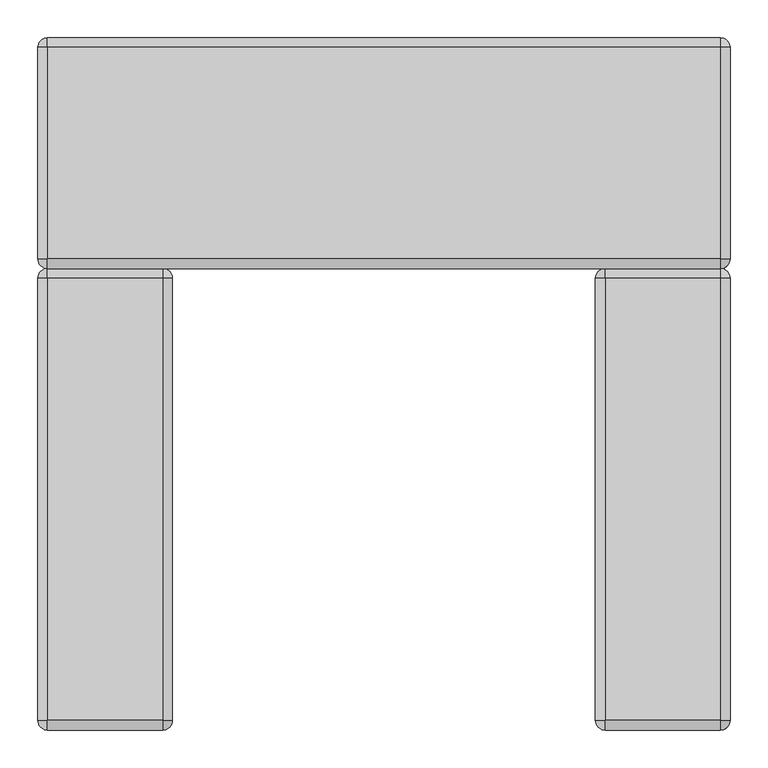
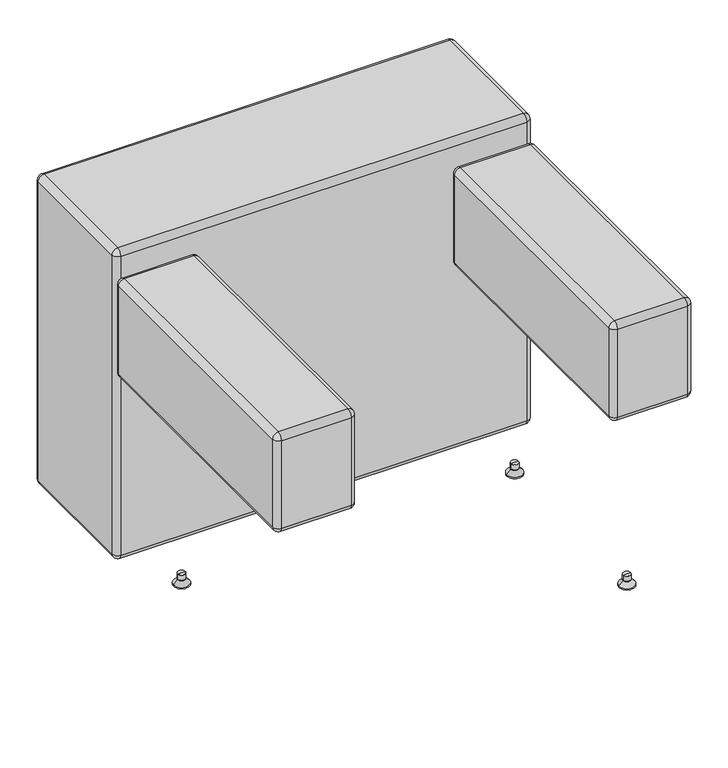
"""IFC4 building model written with IfcOpenShell, lengths in millimetres: furniture geometry, KFI Studios - Conversa : 24”x36” Seat - Armchair."""

from ifc_helpers import new_model, si_unit, point, frame, origin, place, context, project, spatial, polyline, circle_curve, ellipse_curve, trimmed, source, transform, mapped, element, save
from ifc_brep_helpers import plane_surface, cylinder_surface, revolved_surface, advanced_brep


def furniture_3dcba1a2(model_context):
    return source(origin(), model_context, "Body", "AdvancedBrep", [
        advanced_brep(
        [(-457.2, 292.1, 673.1), (-457.2, -292.1, 673.1), (-444.5, -292.1, 685.8), (-444.5, 292.1, 685.8), (-457.2, 292.1, 469.9), (-457.2, -292.1, 469.9), (-444.5, 292.1, 457.2), (-444.5, -292.1, 457.2), (-444.5, -304.8, 673.1), (-292.1, -304.8, 673.1), (-292.1, -292.1, 685.8), (-444.5, -304.8, 469.9), (-292.1, -304.8, 469.9), (-292.1, -292.1, 457.2), (-292.1, 292.1, 685.8), (-292.1, 292.1, 457.2), (-292.1, 304.8, 673.1), (-444.5, 304.8, 673.1), (-292.1, 304.8, 469.9), (-444.5, 304.8, 469.9), (-279.4, -292.1, 673.1), (-279.4, 292.1, 673.1), (-279.4, -292.1, 469.9), (-279.4, 292.1, 469.9)],
        [
            (0, 1),
            (1, 2, circle_curve(frame((-444.5, -292.1, 673.1), z_axis=(0.0, 1.0, 0.0), x_axis=(-1.0, 0.0, 0.0)), 12.7)),
            (2, 3),
            (3, 0, circle_curve(frame((-444.5, 292.1, 673.1), z_axis=(0.0, -1.0, 0.0), x_axis=(-1.0, 0.0, 0.0)), 12.7)),
            (0, 4),
            (4, 5),
            (5, 1),
            (4, 6, circle_curve(frame((-444.5, 292.1, 469.9), z_axis=(0.0, -1.0, 0.0), x_axis=(-1.0, 0.0, 0.0)), 12.7)),
            (6, 7),
            (7, 5, circle_curve(frame((-444.5, -292.1, 469.9), z_axis=(0.0, 1.0, 0.0), x_axis=(-1.0, 0.0, 0.0)), 12.7)),
            (8, 9),
            (9, 10, circle_curve(frame((-292.1, -292.1, 673.1), z_axis=(-1.0, 0.0, 0.0), x_axis=(0.0, 1.0, 0.0)), 12.7)),
            (10, 2),
            (2, 8, circle_curve(frame((-444.5, -292.1, 673.1), z_axis=(1.0, 0.0, 0.0), x_axis=(0.0, 1.0, 0.0)), 12.7)),
            (8, 11),
            (11, 12),
            (12, 9),
            (11, 7, circle_curve(frame((-444.5, -292.1, 469.9), z_axis=(1.0, 0.0, 0.0), x_axis=(0.0, 1.0, 0.0)), 12.7)),
            (7, 13),
            (13, 12, circle_curve(frame((-292.1, -292.1, 469.9), z_axis=(-1.0, 0.0, 0.0), x_axis=(0.0, 1.0, 0.0)), 12.7)),
            (10, 14),
            (14, 3),
            (6, 15),
            (15, 13),
            (16, 17),
            (17, 3, circle_curve(frame((-444.5, 292.1, 673.1), z_axis=(1.0, 0.0, 0.0), x_axis=(0.0, 1.0, 0.0)), 12.7)),
            (14, 16, circle_curve(frame((-292.1, 292.1, 673.1), z_axis=(-1.0, 0.0, 0.0), x_axis=(0.0, 1.0, 0.0)), 12.7)),
            (16, 18),
            (18, 19),
            (19, 17),
            (18, 15, circle_curve(frame((-292.1, 292.1, 469.9), z_axis=(-1.0, 0.0, 0.0), x_axis=(0.0, 1.0, 0.0)), 12.7)),
            (6, 19, circle_curve(frame((-444.5, 292.1, 469.9), z_axis=(1.0, 0.0, 0.0), x_axis=(0.0, 1.0, 0.0)), 12.7)),
            (20, 21),
            (21, 14, circle_curve(frame((-292.1, 292.1, 673.1), z_axis=(0.0, -1.0, 0.0), x_axis=(-1.0, 0.0, 0.0)), 12.7)),
            (10, 20, circle_curve(frame((-292.1, -292.1, 673.1), z_axis=(0.0, 1.0, 0.0), x_axis=(-1.0, 0.0, 0.0)), 12.7)),
            (20, 22),
            (22, 23),
            (23, 21),
            (22, 13, circle_curve(frame((-292.1, -292.1, 469.9), z_axis=(0.0, 1.0, 0.0), x_axis=(-1.0, 0.0, 0.0)), 12.7)),
            (15, 23, circle_curve(frame((-292.1, 292.1, 469.9), z_axis=(0.0, -1.0, 0.0), x_axis=(-1.0, 0.0, 0.0)), 12.7)),
            (19, 4, circle_curve(frame((-444.5, 292.1, 469.9), z_axis=(0.0, 0.0, 1.0), x_axis=(-1.0, 0.0, 0.0)), 12.7)),
            (0, 17, circle_curve(frame((-444.5, 292.1, 673.1), z_axis=(0.0, 0.0, -1.0), x_axis=(-1.0, 0.0, 0.0)), 12.7)),
            (8, 1, circle_curve(frame((-444.5, -292.1, 673.1), z_axis=(0.0, 0.0, -1.0), x_axis=(-1.0, 0.0, 0.0)), 12.7)),
            (5, 11, circle_curve(frame((-444.5, -292.1, 469.9), z_axis=(0.0, 0.0, 1.0), x_axis=(-1.0, 0.0, 0.0)), 12.7)),
            (12, 22, circle_curve(frame((-292.1, -292.1, 469.9), z_axis=(0.0, 0.0, 1.0), x_axis=(1.0, 0.0, 0.0)), 12.7)),
            (20, 9, circle_curve(frame((-292.1, -292.1, 673.1), z_axis=(0.0, 0.0, -1.0), x_axis=(1.0, 0.0, 0.0)), 12.7)),
            (16, 21, circle_curve(frame((-292.1, 292.1, 673.1), z_axis=(0.0, 0.0, -1.0), x_axis=(1.0, 0.0, 0.0)), 12.7)),
            (23, 18, circle_curve(frame((-292.1, 292.1, 469.9), z_axis=(0.0, 0.0, 1.0), x_axis=(1.0, 0.0, 0.0)), 12.7)),
        ],
        [
            cylinder_surface(frame((-444.5, -292.1, 673.1), z_axis=(0.0, -1.0, 0.0), x_axis=(-1.0, 0.0, 0.0)), 12.7),
            plane_surface(frame((-457.2, -292.1, 673.1), z_axis=(-1.0, 0.0, 0.0), x_axis=(0.0, 1.0, 0.0))),
            cylinder_surface(frame((-444.5, -292.1, 469.9), z_axis=(0.0, -1.0, 0.0), x_axis=(-1.0, 0.0, 0.0)), 12.7),
            cylinder_surface(frame((-444.5, -292.1, 673.1), z_axis=(-1.0, 0.0, 0.0), x_axis=(0.0, 1.0, 0.0)), 12.7),
            plane_surface(frame((-444.5, -304.8, 469.9), z_axis=(0.0, -1.0, 0.0), x_axis=(1.0, 0.0, 0.0))),
            cylinder_surface(frame((-444.5, -292.1, 469.9), z_axis=(-1.0, 0.0, 0.0), x_axis=(0.0, 1.0, 0.0)), 12.7),
            plane_surface(frame((-444.5, 292.1, 685.8), z_axis=(0.0, 0.0, 1.0), x_axis=(-1.0, 0.0, 0.0))),
            plane_surface(frame((-444.5, 292.1, 457.2), z_axis=(0.0, 0.0, -1.0), x_axis=(1.0, 0.0, 0.0))),
            cylinder_surface(frame((-444.5, 292.1, 673.1), z_axis=(-1.0, 0.0, 0.0), x_axis=(0.0, 1.0, 0.0)), 12.7),
            plane_surface(frame((-444.5, 304.8, 673.1), z_axis=(0.0, 1.0, 0.0), x_axis=(1.0, 0.0, 0.0))),
            cylinder_surface(frame((-444.5, 292.1, 469.9), z_axis=(-1.0, 0.0, 0.0), x_axis=(0.0, 1.0, 0.0)), 12.7),
            cylinder_surface(frame((-292.1, -292.1, 673.1), z_axis=(0.0, -1.0, 0.0), x_axis=(-1.0, 0.0, 0.0)), 12.7),
            plane_surface(frame((-279.4, -292.1, 469.9), z_axis=(1.0, 0.0, 0.0), x_axis=(0.0, 1.0, 0.0))),
            cylinder_surface(frame((-292.1, -292.1, 469.9), z_axis=(0.0, -1.0, 0.0), x_axis=(-1.0, 0.0, 0.0)), 12.7),
            cylinder_surface(frame((-444.5, 292.1, 685.8), z_axis=(0.0, 0.0, 1.0), x_axis=(-1.0, 0.0, 0.0)), 12.7),
            revolved_surface(trimmed(ellipse_curve(frame((-444.5, 292.1, 469.9), z_axis=(0.0, 1.0, 0.0), x_axis=(0.0, 0.0, 1.0)), 12.7, 12.7), [point((-444.5, 292.1, 457.2))], [point((-457.2, 292.1, 469.9))], True, "CARTESIAN"), (-444.5, 292.1, 685.8), (0.0, 0.0, 1.0)),
            revolved_surface(trimmed(ellipse_curve(frame((-444.5, 292.1, 673.1), z_axis=(0.0, 1.0, 0.0), x_axis=(0.0, 0.0, 1.0)), 12.7, 12.7), [point((-457.2, 292.1, 673.1))], [point((-444.5, 292.1, 685.8))], True, "CARTESIAN"), (-444.5, 292.1, 685.8), (0.0, 0.0, 1.0)),
            cylinder_surface(frame((-444.5, -292.1, 535.5189642), z_axis=(0.0, 0.0, -1.0), x_axis=(-1.0, 0.0, 0.0)), 12.7),
            revolved_surface(trimmed(ellipse_curve(frame((-444.5, -292.1, 673.1), z_axis=(0.0, -1.0, 0.0), x_axis=(1.0, 0.0, 0.0)), 12.7, 12.7), [point((-444.5, -292.1, 685.8))], [point((-457.2, -292.1, 673.1))], True, "CARTESIAN"), (-444.5, -292.1, 535.5189642), (0.0, 0.0, -1.0)),
            revolved_surface(trimmed(ellipse_curve(frame((-444.5, -292.1, 469.9), z_axis=(0.0, -1.0, 0.0), x_axis=(1.0, 0.0, 0.0)), 12.7, 12.7), [point((-457.2, -292.1, 469.9))], [point((-444.5, -292.1, 457.2))], True, "CARTESIAN"), (-444.5, -292.1, 535.5189642), (0.0, 0.0, -1.0)),
            cylinder_surface(frame((-292.1, -292.1, 685.8), z_axis=(0.0, 0.0, 1.0), x_axis=(1.0, 0.0, 0.0)), 12.7),
            revolved_surface(trimmed(ellipse_curve(frame((-292.1, -292.1, 469.9), z_axis=(0.0, -1.0, 0.0), x_axis=(1.0, 0.0, 0.0)), 12.7, 12.7), [point((-292.1, -292.1, 457.2))], [point((-279.4, -292.1, 469.9))], True, "CARTESIAN"), (-292.1, -292.1, 685.8), (0.0, 0.0, 1.0)),
            revolved_surface(trimmed(ellipse_curve(frame((-292.1, -292.1, 673.1), z_axis=(0.0, -1.0, 0.0), x_axis=(1.0, 0.0, 0.0)), 12.7, 12.7), [point((-279.4, -292.1, 673.1))], [point((-292.1, -292.1, 685.8))], True, "CARTESIAN"), (-292.1, -292.1, 685.8), (0.0, 0.0, 1.0)),
            cylinder_surface(frame((-292.1, 292.1, 535.5189642), z_axis=(0.0, 0.0, -1.0), x_axis=(1.0, 0.0, 0.0)), 12.7),
            revolved_surface(trimmed(ellipse_curve(frame((-292.1, 292.1, 673.1), z_axis=(0.0, 1.0, 0.0), x_axis=(0.0, 0.0, 1.0)), 12.7, 12.7), [point((-292.1, 292.1, 685.8))], [point((-279.4, 292.1, 673.1))], True, "CARTESIAN"), (-292.1, 292.1, 535.5189642), (0.0, 0.0, -1.0)),
            revolved_surface(trimmed(ellipse_curve(frame((-292.1, 292.1, 469.9), z_axis=(0.0, 1.0, 0.0), x_axis=(0.0, 0.0, 1.0)), 12.7, 12.7), [point((-279.4, 292.1, 469.9))], [point((-292.1, 292.1, 457.2))], True, "CARTESIAN"), (-292.1, 292.1, 535.5189642), (0.0, 0.0, -1.0)),
        ],
        [
            (0, [[1, 2, 3, 4]]),
            (1, [[-1, 5, 6, 7]]),
            (2, [[-6, 8, 9, 10]]),
            (3, [[11, 12, 13, 14]]),
            (4, [[-11, 15, 16, 17]]),
            (5, [[-16, 18, 19, 20]]),
            (6, [[-3, -13, 21, 22]]),
            (7, [[-9, 23, 24, -19]]),
            (8, [[25, 26, -22, 27]]),
            (9, [[-25, 28, 29, 30]]),
            (10, [[-29, 31, -23, 32]]),
            (11, [[33, 34, -21, 35]]),
            (12, [[-33, 36, 37, 38]]),
            (13, [[-37, 39, -24, 40]]),
            (14, [[41, -5, 42, -30]]),
            (15, [[-41, -32, -8]]),
            (16, [[-42, -4, -26]]),
            (17, [[43, -7, 44, -15]]),
            (18, [[-43, -14, -2]]),
            (19, [[-44, -10, -18]]),
            (20, [[45, -36, 46, -17]]),
            (21, [[-45, -20, -39]]),
            (22, [[-46, -35, -12]]),
            (23, [[47, -38, 48, -28]]),
            (24, [[-47, -27, -34]]),
            (25, [[-48, -40, -31]]),
        ],
    ),
        advanced_brep(
        [(279.4, 292.1, 673.1), (279.4, -292.1, 673.1), (292.1, -292.1, 685.8), (292.1, 292.1, 685.8), (279.4, 292.1, 469.9), (279.4, -292.1, 469.9), (292.1, 292.1, 457.2), (292.1, -292.1, 457.2), (292.1, -304.8, 673.1), (444.5, -304.8, 673.1), (444.5, -292.1, 685.8), (292.1, -304.8, 469.9), (444.5, -304.8, 469.9), (444.5, -292.1, 457.2), (444.5, 292.1, 685.8), (444.5, 292.1, 457.2), (444.5, 304.8, 673.1), (292.1, 304.8, 673.1), (444.5, 304.8, 469.9), (292.1, 304.8, 469.9), (457.2, -292.1, 673.1), (457.2, 292.1, 673.1), (457.2, -292.1, 469.9), (457.2, 292.1, 469.9)],
        [
            (0, 1),
            (1, 2, circle_curve(frame((292.1, -292.1, 673.1), z_axis=(0.0, 1.0, 0.0), x_axis=(-1.0, 0.0, 0.0)), 12.7)),
            (2, 3),
            (3, 0, circle_curve(frame((292.1, 292.1, 673.1), z_axis=(0.0, -1.0, 0.0), x_axis=(-1.0, 0.0, 0.0)), 12.7)),
            (0, 4),
            (4, 5),
            (5, 1),
            (4, 6, circle_curve(frame((292.1, 292.1, 469.9), z_axis=(0.0, -1.0, 0.0), x_axis=(-1.0, 0.0, 0.0)), 12.7)),
            (6, 7),
            (7, 5, circle_curve(frame((292.1, -292.1, 469.9), z_axis=(0.0, 1.0, 0.0), x_axis=(-1.0, 0.0, 0.0)), 12.7)),
            (8, 9),
            (9, 10, circle_curve(frame((444.5, -292.1, 673.1), z_axis=(-1.0, 0.0, 0.0), x_axis=(0.0, 1.0, 0.0)), 12.7)),
            (10, 2),
            (2, 8, circle_curve(frame((292.1, -292.1, 673.1), z_axis=(1.0, 0.0, 0.0), x_axis=(0.0, 1.0, 0.0)), 12.7)),
            (8, 11),
            (11, 12),
            (12, 9),
            (11, 7, circle_curve(frame((292.1, -292.1, 469.9), z_axis=(1.0, 0.0, 0.0), x_axis=(0.0, 1.0, 0.0)), 12.7)),
            (7, 13),
            (13, 12, circle_curve(frame((444.5, -292.1, 469.9), z_axis=(-1.0, 0.0, 0.0), x_axis=(0.0, 1.0, 0.0)), 12.7)),
            (10, 14),
            (14, 3),
            (6, 15),
            (15, 13),
            (16, 17),
            (17, 3, circle_curve(frame((292.1, 292.1, 673.1), z_axis=(1.0, 0.0, 0.0), x_axis=(0.0, 1.0, 0.0)), 12.7)),
            (14, 16, circle_curve(frame((444.5, 292.1, 673.1), z_axis=(-1.0, 0.0, 0.0), x_axis=(0.0, 1.0, 0.0)), 12.7)),
            (16, 18),
            (18, 19),
            (19, 17),
            (18, 15, circle_curve(frame((444.5, 292.1, 469.9), z_axis=(-1.0, 0.0, 0.0), x_axis=(0.0, 1.0, 0.0)), 12.7)),
            (6, 19, circle_curve(frame((292.1, 292.1, 469.9), z_axis=(1.0, 0.0, 0.0), x_axis=(0.0, 1.0, 0.0)), 12.7)),
            (20, 21),
            (21, 14, circle_curve(frame((444.5, 292.1, 673.1), z_axis=(0.0, -1.0, 0.0), x_axis=(-1.0, 0.0, 0.0)), 12.7)),
            (10, 20, circle_curve(frame((444.5, -292.1, 673.1), z_axis=(0.0, 1.0, 0.0), x_axis=(-1.0, 0.0, 0.0)), 12.7)),
            (20, 22),
            (22, 23),
            (23, 21),
            (22, 13, circle_curve(frame((444.5, -292.1, 469.9), z_axis=(0.0, 1.0, 0.0), x_axis=(-1.0, 0.0, 0.0)), 12.7)),
            (15, 23, circle_curve(frame((444.5, 292.1, 469.9), z_axis=(0.0, -1.0, 0.0), x_axis=(-1.0, 0.0, 0.0)), 12.7)),
            (19, 4, circle_curve(frame((292.1, 292.1, 469.9), z_axis=(0.0, 0.0, 1.0), x_axis=(-1.0, 0.0, 0.0)), 12.7)),
            (0, 17, circle_curve(frame((292.1, 292.1, 673.1), z_axis=(0.0, 0.0, -1.0), x_axis=(-1.0, 0.0, 0.0)), 12.7)),
            (8, 1, circle_curve(frame((292.1, -292.1, 673.1), z_axis=(0.0, 0.0, -1.0), x_axis=(-1.0, 0.0, 0.0)), 12.7)),
            (5, 11, circle_curve(frame((292.1, -292.1, 469.9), z_axis=(0.0, 0.0, 1.0), x_axis=(-1.0, 0.0, 0.0)), 12.7)),
            (12, 22, circle_curve(frame((444.5, -292.1, 469.9), z_axis=(0.0, 0.0, 1.0), x_axis=(1.0, 0.0, 0.0)), 12.7)),
            (20, 9, circle_curve(frame((444.5, -292.1, 673.1), z_axis=(0.0, 0.0, -1.0), x_axis=(1.0, 0.0, 0.0)), 12.7)),
            (16, 21, circle_curve(frame((444.5, 292.1, 673.1), z_axis=(0.0, 0.0, -1.0), x_axis=(1.0, 0.0, 0.0)), 12.7)),
            (23, 18, circle_curve(frame((444.5, 292.1, 469.9), z_axis=(0.0, 0.0, 1.0), x_axis=(1.0, 0.0, 0.0)), 12.7)),
        ],
        [
            cylinder_surface(frame((292.1, -292.1, 673.1), z_axis=(0.0, -1.0, 0.0), x_axis=(-1.0, 0.0, 0.0)), 12.7),
            plane_surface(frame((279.4, -292.1, 673.1), z_axis=(-1.0, 0.0, 0.0), x_axis=(0.0, 1.0, 0.0))),
            cylinder_surface(frame((292.1, -292.1, 469.9), z_axis=(0.0, -1.0, 0.0), x_axis=(-1.0, 0.0, 0.0)), 12.7),
            cylinder_surface(frame((292.1, -292.1, 673.1), z_axis=(-1.0, 0.0, 0.0), x_axis=(0.0, 1.0, 0.0)), 12.7),
            plane_surface(frame((292.1, -304.8, 469.9), z_axis=(0.0, -1.0, 0.0), x_axis=(1.0, 0.0, 0.0))),
            cylinder_surface(frame((292.1, -292.1, 469.9), z_axis=(-1.0, 0.0, 0.0), x_axis=(0.0, 1.0, 0.0)), 12.7),
            plane_surface(frame((292.1, 292.1, 685.8), z_axis=(0.0, 0.0, 1.0), x_axis=(-1.0, 0.0, 0.0))),
            plane_surface(frame((292.1, 292.1, 457.2), z_axis=(0.0, 0.0, -1.0), x_axis=(1.0, 0.0, 0.0))),
            cylinder_surface(frame((292.1, 292.1, 673.1), z_axis=(-1.0, 0.0, 0.0), x_axis=(0.0, 1.0, 0.0)), 12.7),
            plane_surface(frame((292.1, 304.8, 673.1), z_axis=(0.0, 1.0, 0.0), x_axis=(1.0, 0.0, 0.0))),
            cylinder_surface(frame((292.1, 292.1, 469.9), z_axis=(-1.0, 0.0, 0.0), x_axis=(0.0, 1.0, 0.0)), 12.7),
            cylinder_surface(frame((444.5, -292.1, 673.1), z_axis=(0.0, -1.0, 0.0), x_axis=(-1.0, 0.0, 0.0)), 12.7),
            plane_surface(frame((457.2, -292.1, 469.9), z_axis=(1.0, 0.0, 0.0), x_axis=(0.0, 1.0, 0.0))),
            cylinder_surface(frame((444.5, -292.1, 469.9), z_axis=(0.0, -1.0, 0.0), x_axis=(-1.0, 0.0, 0.0)), 12.7),
            cylinder_surface(frame((292.1, 292.1, 685.8), z_axis=(0.0, 0.0, 1.0), x_axis=(-1.0, 0.0, 0.0)), 12.7),
            revolved_surface(trimmed(ellipse_curve(frame((292.1, 292.1, 469.9), z_axis=(0.0, 1.0, 0.0), x_axis=(0.0, 0.0, 1.0)), 12.7, 12.7), [point((292.1, 292.1, 457.2))], [point((279.4, 292.1, 469.9))], True, "CARTESIAN"), (292.1, 292.1, 685.8), (0.0, 0.0, 1.0)),
            revolved_surface(trimmed(ellipse_curve(frame((292.1, 292.1, 673.1), z_axis=(0.0, 1.0, 0.0), x_axis=(0.0, 0.0, 1.0)), 12.7, 12.7), [point((279.4, 292.1, 673.1))], [point((292.1, 292.1, 685.8))], True, "CARTESIAN"), (292.1, 292.1, 685.8), (0.0, 0.0, 1.0)),
            cylinder_surface(frame((292.1, -292.1, 535.5189642), z_axis=(0.0, 0.0, -1.0), x_axis=(-1.0, 0.0, 0.0)), 12.7),
            revolved_surface(trimmed(ellipse_curve(frame((292.1, -292.1, 673.1), z_axis=(0.0, -1.0, 0.0), x_axis=(1.0, 0.0, 0.0)), 12.7, 12.7), [point((292.1, -292.1, 685.8))], [point((279.4, -292.1, 673.1))], True, "CARTESIAN"), (292.1, -292.1, 535.5189642), (0.0, 0.0, -1.0)),
            revolved_surface(trimmed(ellipse_curve(frame((292.1, -292.1, 469.9), z_axis=(0.0, -1.0, 0.0), x_axis=(1.0, 0.0, 0.0)), 12.7, 12.7), [point((279.4, -292.1, 469.9))], [point((292.1, -292.1, 457.2))], True, "CARTESIAN"), (292.1, -292.1, 535.5189642), (0.0, 0.0, -1.0)),
            cylinder_surface(frame((444.5, -292.1, 685.8), z_axis=(0.0, 0.0, 1.0), x_axis=(1.0, 0.0, 0.0)), 12.7),
            revolved_surface(trimmed(ellipse_curve(frame((444.5, -292.1, 469.9), z_axis=(0.0, -1.0, 0.0), x_axis=(1.0, 0.0, 0.0)), 12.7, 12.7), [point((444.5, -292.1, 457.2))], [point((457.2, -292.1, 469.9))], True, "CARTESIAN"), (444.5, -292.1, 685.8), (0.0, 0.0, 1.0)),
            revolved_surface(trimmed(ellipse_curve(frame((444.5, -292.1, 673.1), z_axis=(0.0, -1.0, 0.0), x_axis=(1.0, 0.0, 0.0)), 12.7, 12.7), [point((457.2, -292.1, 673.1))], [point((444.5, -292.1, 685.8))], True, "CARTESIAN"), (444.5, -292.1, 685.8), (0.0, 0.0, 1.0)),
            cylinder_surface(frame((444.5, 292.1, 535.5189642), z_axis=(0.0, 0.0, -1.0), x_axis=(1.0, 0.0, 0.0)), 12.7),
            revolved_surface(trimmed(ellipse_curve(frame((444.5, 292.1, 673.1), z_axis=(0.0, 1.0, 0.0), x_axis=(0.0, 0.0, 1.0)), 12.7, 12.7), [point((444.5, 292.1, 685.8))], [point((457.2, 292.1, 673.1))], True, "CARTESIAN"), (444.5, 292.1, 535.5189642), (0.0, 0.0, -1.0)),
            revolved_surface(trimmed(ellipse_curve(frame((444.5, 292.1, 469.9), z_axis=(0.0, 1.0, 0.0), x_axis=(0.0, 0.0, 1.0)), 12.7, 12.7), [point((457.2, 292.1, 469.9))], [point((444.5, 292.1, 457.2))], True, "CARTESIAN"), (444.5, 292.1, 535.5189642), (0.0, 0.0, -1.0)),
        ],
        [
            (0, [[1, 2, 3, 4]]),
            (1, [[-1, 5, 6, 7]]),
            (2, [[-6, 8, 9, 10]]),
            (3, [[11, 12, 13, 14]]),
            (4, [[-11, 15, 16, 17]]),
            (5, [[-16, 18, 19, 20]]),
            (6, [[-3, -13, 21, 22]]),
            (7, [[-9, 23, 24, -19]]),
            (8, [[25, 26, -22, 27]]),
            (9, [[-25, 28, 29, 30]]),
            (10, [[-29, 31, -23, 32]]),
            (11, [[33, 34, -21, 35]]),
            (12, [[-33, 36, 37, 38]]),
            (13, [[-37, 39, -24, 40]]),
            (14, [[41, -5, 42, -30]]),
            (15, [[-41, -32, -8]]),
            (16, [[-42, -4, -26]]),
            (17, [[43, -7, 44, -15]]),
            (18, [[-43, -14, -2]]),
            (19, [[-44, -10, -18]]),
            (20, [[45, -36, 46, -17]]),
            (21, [[-45, -20, -39]]),
            (22, [[-46, -35, -12]]),
            (23, [[47, -38, 48, -28]]),
            (24, [[-47, -27, -34]]),
            (25, [[-48, -40, -31]]),
        ],
    ),
        advanced_brep(
        [(373.3895895, 517.525, 25.4), (365.125, 517.525, 25.4), (356.8604105, 517.525, 25.4), (373.3895895, 517.525, 14.2843611), (356.8604105, 517.525, 14.2843611), (371.7876354, 517.525, 14.2843611), (358.4623646, 517.525, 14.2843611), (371.7876354, 517.525, 12.7064551), (358.4623646, 517.525, 12.7064551), (373.3890671, 517.525, 12.7064551), (356.8609329, 517.525, 12.7064551), (382.5741215, 517.525, 3.1950529), (347.6758785, 517.525, 3.1950529), (382.5741215, 517.525, 0.0), (347.6758785, 517.525, 0.0), (365.125, 517.525, 0.0)],
        [
            (0, 1),
            (1, 2),
            (2, 0, circle_curve(frame((365.125, 517.525, 25.4), z_axis=(0.0, 0.0, 1.0), x_axis=(-1.0, 0.0, 0.0)), 8.2645895)),
            (0, 2, circle_curve(frame((365.125, 517.525, 25.4), z_axis=(0.0, 0.0, 1.0), x_axis=(-1.0, 0.0, 0.0)), 8.2645895)),
            (3, 0),
            (2, 4),
            (4, 3, circle_curve(frame((365.125, 517.525, 14.2843611), z_axis=(0.0, 0.0, 1.0), x_axis=(-1.0, 0.0, 0.0)), 8.2645895)),
            (3, 4, circle_curve(frame((365.125, 517.525, 14.2843611), z_axis=(0.0, 0.0, 1.0), x_axis=(-1.0, 0.0, 0.0)), 8.2645895)),
            (5, 3),
            (4, 6),
            (6, 5, circle_curve(frame((365.125, 517.525, 14.2843611), z_axis=(0.0, 0.0, 1.0), x_axis=(-1.0, 0.0, 0.0)), 6.6626354)),
            (5, 6, circle_curve(frame((365.125, 517.525, 14.2843611), z_axis=(0.0, 0.0, 1.0), x_axis=(-1.0, 0.0, 0.0)), 6.6626354)),
            (7, 5),
            (6, 8),
            (8, 7, circle_curve(frame((365.125, 517.525, 12.7064551), z_axis=(0.0, 0.0, 1.0), x_axis=(-1.0, 0.0, 0.0)), 6.6626354)),
            (7, 8, circle_curve(frame((365.125, 517.525, 12.7064551), z_axis=(0.0, 0.0, 1.0), x_axis=(-1.0, 0.0, 0.0)), 6.6626354)),
            (9, 7),
            (8, 10),
            (10, 9, circle_curve(frame((365.125, 517.525, 12.7064551), z_axis=(0.0, 0.0, 1.0), x_axis=(-1.0, 0.0, 0.0)), 8.2640671)),
            (9, 10, circle_curve(frame((365.125, 517.525, 12.7064551), z_axis=(0.0, 0.0, 1.0), x_axis=(-1.0, 0.0, 0.0)), 8.2640671)),
            (11, 9),
            (10, 12),
            (12, 11, circle_curve(frame((365.125, 517.525, 3.1950529), z_axis=(0.0, 0.0, 1.0), x_axis=(-1.0, 0.0, 0.0)), 17.4491215)),
            (11, 12, circle_curve(frame((365.125, 517.525, 3.1950529), z_axis=(0.0, 0.0, 1.0), x_axis=(-1.0, 0.0, 0.0)), 17.4491215)),
            (13, 11),
            (12, 14),
            (14, 13, circle_curve(frame((365.125, 517.525, 0.0), z_axis=(0.0, 0.0, 1.0), x_axis=(-1.0, 0.0, 0.0)), 17.4491215)),
            (13, 14, circle_curve(frame((365.125, 517.525, 0.0), z_axis=(0.0, 0.0, 1.0), x_axis=(-1.0, 0.0, 0.0)), 17.4491215)),
            (15, 13),
            (14, 15),
        ],
        [
            plane_surface(frame((365.125, 517.525, 25.4), z_axis=(0.0, 0.0, 1.0), x_axis=(-1.0, 0.0, 0.0))),
            cylinder_surface(frame((365.125, 517.525, 33.820929), z_axis=(0.0, 0.0, -1.0), x_axis=(-1.0, 0.0, 0.0)), 8.2645895),
            plane_surface(frame((365.125, 517.525, 14.2843611), z_axis=(0.0, 0.0, -1.0), x_axis=(-1.0, 0.0, 0.0))),
            cylinder_surface(frame((365.125, 517.525, 33.820929), z_axis=(0.0, 0.0, -1.0), x_axis=(-1.0, 0.0, 0.0)), 6.6626354),
            plane_surface(frame((365.125, 517.525, 12.7064551), z_axis=(0.0, 0.0, 1.0), x_axis=(-1.0, 0.0, 0.0))),
            revolved_surface(polyline([(356.8609329, 517.525, 12.7064551), (347.6758785, 517.525, 3.1950529)]), (365.125, 517.525, 33.820929), (0.0, 0.0, -1.0)),
            cylinder_surface(frame((365.125, 517.525, 33.820929), z_axis=(0.0, 0.0, -1.0), x_axis=(-1.0, 0.0, 0.0)), 17.4491215),
            plane_surface(frame((365.125, 517.525, 0.0), z_axis=(0.0, 0.0, -1.0), x_axis=(-1.0, 0.0, 0.0))),
        ],
        [
            (0, [[1, 2, 3]]),
            (0, [[-2, -1, 4]]),
            (1, [[5, -3, 6, 7]]),
            (1, [[-6, -4, -5, 8]]),
            (2, [[9, -7, 10, 11]]),
            (2, [[-10, -8, -9, 12]]),
            (3, [[13, -11, 14, 15]]),
            (3, [[-14, -12, -13, 16]]),
            (4, [[17, -15, 18, 19]]),
            (4, [[-18, -16, -17, 20]]),
            (5, [[21, -19, 22, 23]]),
            (5, [[-22, -20, -21, 24]]),
            (6, [[25, -23, 26, 27]]),
            (6, [[-26, -24, -25, 28]]),
            (7, [[29, -27, 30]]),
            (7, [[-30, -28, -29]]),
        ],
    ),
        advanced_brep(
        [(-356.8604105, 517.525, 25.4), (-365.125, 517.525, 25.4), (-373.3895895, 517.525, 25.4), (-356.8604105, 517.525, 14.2843611), (-373.3895895, 517.525, 14.2843611), (-358.4623646, 517.525, 14.2843611), (-371.7876354, 517.525, 14.2843611), (-358.4623646, 517.525, 12.7064551), (-371.7876354, 517.525, 12.7064551), (-356.8609329, 517.525, 12.7064551), (-373.3890671, 517.525, 12.7064551), (-347.6758785, 517.525, 3.1950529), (-382.5741215, 517.525, 3.1950529), (-347.6758785, 517.525, 0.0), (-382.5741215, 517.525, 0.0), (-365.125, 517.525, 0.0)],
        [
            (0, 1),
            (1, 2),
            (2, 0, circle_curve(frame((-365.125, 517.525, 25.4), z_axis=(0.0, 0.0, 1.0), x_axis=(-1.0, 0.0, 0.0)), 8.2645895)),
            (0, 2, circle_curve(frame((-365.125, 517.525, 25.4), z_axis=(0.0, 0.0, 1.0), x_axis=(-1.0, 0.0, 0.0)), 8.2645895)),
            (3, 0),
            (2, 4),
            (4, 3, circle_curve(frame((-365.125, 517.525, 14.2843611), z_axis=(0.0, 0.0, 1.0), x_axis=(-1.0, 0.0, 0.0)), 8.2645895)),
            (3, 4, circle_curve(frame((-365.125, 517.525, 14.2843611), z_axis=(0.0, 0.0, 1.0), x_axis=(-1.0, 0.0, 0.0)), 8.2645895)),
            (5, 3),
            (4, 6),
            (6, 5, circle_curve(frame((-365.125, 517.525, 14.2843611), z_axis=(0.0, 0.0, 1.0), x_axis=(-1.0, 0.0, 0.0)), 6.6626354)),
            (5, 6, circle_curve(frame((-365.125, 517.525, 14.2843611), z_axis=(0.0, 0.0, 1.0), x_axis=(-1.0, 0.0, 0.0)), 6.6626354)),
            (7, 5),
            (6, 8),
            (8, 7, circle_curve(frame((-365.125, 517.525, 12.7064551), z_axis=(0.0, 0.0, 1.0), x_axis=(-1.0, 0.0, 0.0)), 6.6626354)),
            (7, 8, circle_curve(frame((-365.125, 517.525, 12.7064551), z_axis=(0.0, 0.0, 1.0), x_axis=(-1.0, 0.0, 0.0)), 6.6626354)),
            (9, 7),
            (8, 10),
            (10, 9, circle_curve(frame((-365.125, 517.525, 12.7064551), z_axis=(0.0, 0.0, 1.0), x_axis=(-1.0, 0.0, 0.0)), 8.2640671)),
            (9, 10, circle_curve(frame((-365.125, 517.525, 12.7064551), z_axis=(0.0, 0.0, 1.0), x_axis=(-1.0, 0.0, 0.0)), 8.2640671)),
            (11, 9),
            (10, 12),
            (12, 11, circle_curve(frame((-365.125, 517.525, 3.1950529), z_axis=(0.0, 0.0, 1.0), x_axis=(-1.0, 0.0, 0.0)), 17.4491215)),
            (11, 12, circle_curve(frame((-365.125, 517.525, 3.1950529), z_axis=(0.0, 0.0, 1.0), x_axis=(-1.0, 0.0, 0.0)), 17.4491215)),
            (13, 11),
            (12, 14),
            (14, 13, circle_curve(frame((-365.125, 517.525, 0.0), z_axis=(0.0, 0.0, 1.0), x_axis=(-1.0, 0.0, 0.0)), 17.4491215)),
            (13, 14, circle_curve(frame((-365.125, 517.525, 0.0), z_axis=(0.0, 0.0, 1.0), x_axis=(-1.0, 0.0, 0.0)), 17.4491215)),
            (15, 13),
            (14, 15),
        ],
        [
            plane_surface(frame((-365.125, 517.525, 25.4), z_axis=(0.0, 0.0, 1.0), x_axis=(-1.0, 0.0, 0.0))),
            cylinder_surface(frame((-365.125, 517.525, 33.820929), z_axis=(0.0, 0.0, -1.0), x_axis=(-1.0, 0.0, 0.0)), 8.2645895),
            plane_surface(frame((-365.125, 517.525, 14.2843611), z_axis=(0.0, 0.0, -1.0), x_axis=(-1.0, 0.0, 0.0))),
            cylinder_surface(frame((-365.125, 517.525, 33.820929), z_axis=(0.0, 0.0, -1.0), x_axis=(-1.0, 0.0, 0.0)), 6.6626354),
            plane_surface(frame((-365.125, 517.525, 12.7064551), z_axis=(0.0, 0.0, 1.0), x_axis=(-1.0, 0.0, 0.0))),
            revolved_surface(polyline([(-373.3890671, 517.525, 12.7064551), (-382.5741215, 517.525, 3.1950529)]), (-365.125, 517.525, 33.820929), (0.0, 0.0, -1.0)),
            cylinder_surface(frame((-365.125, 517.525, 33.820929), z_axis=(0.0, 0.0, -1.0), x_axis=(-1.0, 0.0, 0.0)), 17.4491215),
            plane_surface(frame((-365.125, 517.525, 0.0), z_axis=(0.0, 0.0, -1.0), x_axis=(-1.0, 0.0, 0.0))),
        ],
        [
            (0, [[1, 2, 3]]),
            (0, [[-2, -1, 4]]),
            (1, [[5, -3, 6, 7]]),
            (1, [[-6, -4, -5, 8]]),
            (2, [[9, -7, 10, 11]]),
            (2, [[-10, -8, -9, 12]]),
            (3, [[13, -11, 14, 15]]),
            (3, [[-14, -12, -13, 16]]),
            (4, [[17, -15, 18, 19]]),
            (4, [[-18, -16, -17, 20]]),
            (5, [[21, -19, 22, 23]]),
            (5, [[-22, -20, -21, 24]]),
            (6, [[25, -23, 26, 27]]),
            (6, [[-26, -24, -25, 28]]),
            (7, [[29, -27, 30]]),
            (7, [[-30, -28, -29]]),
        ],
    ),
        advanced_brep(
        [(-457.2, 596.9, 730.25), (-457.2, 317.5, 730.25), (-444.5, 317.5, 742.95), (-444.5, 596.9, 742.95), (-457.2, 596.9, 38.1), (-457.2, 317.5, 38.1), (-444.5, 596.9, 25.4), (-444.5, 317.5, 25.4), (-444.5, 304.8, 730.25), (444.5, 304.8, 730.25), (444.5, 317.5, 742.95), (-444.5, 304.8, 38.1), (444.5, 304.8, 38.1), (444.5, 317.5, 25.4), (444.5, 596.9, 742.95), (444.5, 596.9, 25.4), (444.5, 609.6, 730.25), (-444.5, 609.6, 730.25), (444.5, 609.6, 38.1), (-444.5, 609.6, 38.1), (457.2, 317.5, 730.25), (457.2, 596.9, 730.25), (457.2, 317.5, 38.1), (457.2, 596.9, 38.1)],
        [
            (0, 1),
            (1, 2, circle_curve(frame((-444.5, 317.5, 730.25), z_axis=(0.0, 1.0, 0.0), x_axis=(-1.0, 0.0, 0.0)), 12.7)),
            (2, 3),
            (3, 0, circle_curve(frame((-444.5, 596.9, 730.25), z_axis=(0.0, -1.0, 0.0), x_axis=(-1.0, 0.0, 0.0)), 12.7)),
            (0, 4),
            (4, 5),
            (5, 1),
            (4, 6, circle_curve(frame((-444.5, 596.9, 38.1), z_axis=(0.0, -1.0, 0.0), x_axis=(-1.0, 0.0, 0.0)), 12.7)),
            (6, 7),
            (7, 5, circle_curve(frame((-444.5, 317.5, 38.1), z_axis=(0.0, 1.0, 0.0), x_axis=(-1.0, 0.0, 0.0)), 12.7)),
            (8, 9),
            (9, 10, circle_curve(frame((444.5, 317.5, 730.25), z_axis=(-1.0, 0.0, 0.0), x_axis=(0.0, 1.0, 0.0)), 12.7)),
            (10, 2),
            (2, 8, circle_curve(frame((-444.5, 317.5, 730.25), z_axis=(1.0, 0.0, 0.0), x_axis=(0.0, 1.0, 0.0)), 12.7)),
            (8, 11),
            (11, 12),
            (12, 9),
            (11, 7, circle_curve(frame((-444.5, 317.5, 38.1), z_axis=(1.0, 0.0, 0.0), x_axis=(0.0, 1.0, 0.0)), 12.7)),
            (7, 13),
            (13, 12, circle_curve(frame((444.5, 317.5, 38.1), z_axis=(-1.0, 0.0, 0.0), x_axis=(0.0, 1.0, 0.0)), 12.7)),
            (10, 14),
            (14, 3),
            (6, 15),
            (15, 13),
            (16, 17),
            (17, 3, circle_curve(frame((-444.5, 596.9, 730.25), z_axis=(1.0, 0.0, 0.0), x_axis=(0.0, 1.0, 0.0)), 12.7)),
            (14, 16, circle_curve(frame((444.5, 596.9, 730.25), z_axis=(-1.0, 0.0, 0.0), x_axis=(0.0, 1.0, 0.0)), 12.7)),
            (16, 18),
            (18, 19),
            (19, 17),
            (18, 15, circle_curve(frame((444.5, 596.9, 38.1), z_axis=(-1.0, 0.0, 0.0), x_axis=(0.0, 1.0, 0.0)), 12.7)),
            (6, 19, circle_curve(frame((-444.5, 596.9, 38.1), z_axis=(1.0, 0.0, 0.0), x_axis=(0.0, 1.0, 0.0)), 12.7)),
            (20, 21),
            (21, 14, circle_curve(frame((444.5, 596.9, 730.25), z_axis=(0.0, -1.0, 0.0), x_axis=(-1.0, 0.0, 0.0)), 12.7)),
            (10, 20, circle_curve(frame((444.5, 317.5, 730.25), z_axis=(0.0, 1.0, 0.0), x_axis=(-1.0, 0.0, 0.0)), 12.7)),
            (20, 22),
            (22, 23),
            (23, 21),
            (22, 13, circle_curve(frame((444.5, 317.5, 38.1), z_axis=(0.0, 1.0, 0.0), x_axis=(-1.0, 0.0, 0.0)), 12.7)),
            (15, 23, circle_curve(frame((444.5, 596.9, 38.1), z_axis=(0.0, -1.0, 0.0), x_axis=(-1.0, 0.0, 0.0)), 12.7)),
            (19, 4, circle_curve(frame((-444.5, 596.9, 38.1), z_axis=(0.0, 0.0, 1.0), x_axis=(-1.0, 0.0, 0.0)), 12.7)),
            (0, 17, circle_curve(frame((-444.5, 596.9, 730.25), z_axis=(0.0, 0.0, -1.0), x_axis=(-1.0, 0.0, 0.0)), 12.7)),
            (8, 1, circle_curve(frame((-444.5, 317.5, 730.25), z_axis=(0.0, 0.0, -1.0), x_axis=(-1.0, 0.0, 0.0)), 12.7)),
            (5, 11, circle_curve(frame((-444.5, 317.5, 38.1), z_axis=(0.0, 0.0, 1.0), x_axis=(-1.0, 0.0, 0.0)), 12.7)),
            (12, 22, circle_curve(frame((444.5, 317.5, 38.1), z_axis=(0.0, 0.0, 1.0), x_axis=(1.0, 0.0, 0.0)), 12.7)),
            (20, 9, circle_curve(frame((444.5, 317.5, 730.25), z_axis=(0.0, 0.0, -1.0), x_axis=(1.0, 0.0, 0.0)), 12.7)),
            (16, 21, circle_curve(frame((444.5, 596.9, 730.25), z_axis=(0.0, 0.0, -1.0), x_axis=(1.0, 0.0, 0.0)), 12.7)),
            (23, 18, circle_curve(frame((444.5, 596.9, 38.1), z_axis=(0.0, 0.0, 1.0), x_axis=(1.0, 0.0, 0.0)), 12.7)),
        ],
        [
            cylinder_surface(frame((-444.5, 317.5, 730.25), z_axis=(0.0, -1.0, 0.0), x_axis=(-1.0, 0.0, 0.0)), 12.7),
            plane_surface(frame((-457.2, 317.5, 730.25), z_axis=(-1.0, 0.0, 0.0), x_axis=(0.0, 1.0, 0.0))),
            cylinder_surface(frame((-444.5, 317.5, 38.1), z_axis=(0.0, -1.0, 0.0), x_axis=(-1.0, 0.0, 0.0)), 12.7),
            cylinder_surface(frame((-444.5, 317.5, 730.25), z_axis=(-1.0, 0.0, 0.0), x_axis=(0.0, 1.0, 0.0)), 12.7),
            plane_surface(frame((-444.5, 304.8, 38.1), z_axis=(0.0, -1.0, 0.0), x_axis=(1.0, 0.0, 0.0))),
            cylinder_surface(frame((-444.5, 317.5, 38.1), z_axis=(-1.0, 0.0, 0.0), x_axis=(0.0, 1.0, 0.0)), 12.7),
            plane_surface(frame((-444.5, 596.9, 742.95), z_axis=(0.0, 0.0, 1.0), x_axis=(-1.0, 0.0, 0.0))),
            plane_surface(frame((-444.5, 596.9, 25.4), z_axis=(0.0, 0.0, -1.0), x_axis=(1.0, 0.0, 0.0))),
            cylinder_surface(frame((-444.5, 596.9, 730.25), z_axis=(-1.0, 0.0, 0.0), x_axis=(0.0, 1.0, 0.0)), 12.7),
            plane_surface(frame((-444.5, 609.6, 730.25), z_axis=(0.0, 1.0, 0.0), x_axis=(1.0, 0.0, 0.0))),
            cylinder_surface(frame((-444.5, 596.9, 38.1), z_axis=(-1.0, 0.0, 0.0), x_axis=(0.0, 1.0, 0.0)), 12.7),
            cylinder_surface(frame((444.5, 317.5, 730.25), z_axis=(0.0, -1.0, 0.0), x_axis=(-1.0, 0.0, 0.0)), 12.7),
            plane_surface(frame((457.2, 317.5, 38.1), z_axis=(1.0, 0.0, 0.0), x_axis=(0.0, 1.0, 0.0))),
            cylinder_surface(frame((444.5, 317.5, 38.1), z_axis=(0.0, -1.0, 0.0), x_axis=(-1.0, 0.0, 0.0)), 12.7),
            cylinder_surface(frame((-444.5, 596.9, 742.95), z_axis=(0.0, 0.0, 1.0), x_axis=(-1.0, 0.0, 0.0)), 12.7),
            revolved_surface(trimmed(ellipse_curve(frame((-444.5, 596.9, 38.1), z_axis=(0.0, 1.0, 0.0), x_axis=(0.0, 0.0, 1.0)), 12.7, 12.7), [point((-444.5, 596.9, 25.4))], [point((-457.2, 596.9, 38.1))], True, "CARTESIAN"), (-444.5, 596.9, 742.95), (0.0, 0.0, 1.0)),
            revolved_surface(trimmed(ellipse_curve(frame((-444.5, 596.9, 730.25), z_axis=(0.0, 1.0, 0.0), x_axis=(0.0, 0.0, 1.0)), 12.7, 12.7), [point((-457.2, 596.9, 730.25))], [point((-444.5, 596.9, 742.95))], True, "CARTESIAN"), (-444.5, 596.9, 742.95), (0.0, 0.0, 1.0)),
            cylinder_surface(frame((-444.5, 317.5, 592.6689642), z_axis=(0.0, 0.0, -1.0), x_axis=(-1.0, 0.0, 0.0)), 12.7),
            revolved_surface(trimmed(ellipse_curve(frame((-444.5, 317.5, 730.25), z_axis=(0.0, -1.0, 0.0), x_axis=(1.0, 0.0, 0.0)), 12.7, 12.7), [point((-444.5, 317.5, 742.95))], [point((-457.2, 317.5, 730.25))], True, "CARTESIAN"), (-444.5, 317.5, 592.6689642), (0.0, 0.0, -1.0)),
            revolved_surface(trimmed(ellipse_curve(frame((-444.5, 317.5, 38.1), z_axis=(0.0, -1.0, 0.0), x_axis=(1.0, 0.0, 0.0)), 12.7, 12.7), [point((-457.2, 317.5, 38.1))], [point((-444.5, 317.5, 25.4))], True, "CARTESIAN"), (-444.5, 317.5, 592.6689642), (0.0, 0.0, -1.0)),
            cylinder_surface(frame((444.5, 317.5, 742.95), z_axis=(0.0, 0.0, 1.0), x_axis=(1.0, 0.0, 0.0)), 12.7),
            revolved_surface(trimmed(ellipse_curve(frame((444.5, 317.5, 38.1), z_axis=(0.0, -1.0, 0.0), x_axis=(1.0, 0.0, 0.0)), 12.7, 12.7), [point((444.5, 317.5, 25.4))], [point((457.2, 317.5, 38.1))], True, "CARTESIAN"), (444.5, 317.5, 742.95), (0.0, 0.0, 1.0)),
            revolved_surface(trimmed(ellipse_curve(frame((444.5, 317.5, 730.25), z_axis=(0.0, -1.0, 0.0), x_axis=(1.0, 0.0, 0.0)), 12.7, 12.7), [point((457.2, 317.5, 730.25))], [point((444.5, 317.5, 742.95))], True, "CARTESIAN"), (444.5, 317.5, 742.95), (0.0, 0.0, 1.0)),
            cylinder_surface(frame((444.5, 596.9, 592.6689642), z_axis=(0.0, 0.0, -1.0), x_axis=(1.0, 0.0, 0.0)), 12.7),
            revolved_surface(trimmed(ellipse_curve(frame((444.5, 596.9, 730.25), z_axis=(0.0, 1.0, 0.0), x_axis=(0.0, 0.0, 1.0)), 12.7, 12.7), [point((444.5, 596.9, 742.95))], [point((457.2, 596.9, 730.25))], True, "CARTESIAN"), (444.5, 596.9, 592.6689642), (0.0, 0.0, -1.0)),
            revolved_surface(trimmed(ellipse_curve(frame((444.5, 596.9, 38.1), z_axis=(0.0, 1.0, 0.0), x_axis=(0.0, 0.0, 1.0)), 12.7, 12.7), [point((457.2, 596.9, 38.1))], [point((444.5, 596.9, 25.4))], True, "CARTESIAN"), (444.5, 596.9, 592.6689642), (0.0, 0.0, -1.0)),
        ],
        [
            (0, [[1, 2, 3, 4]]),
            (1, [[-1, 5, 6, 7]]),
            (2, [[-6, 8, 9, 10]]),
            (3, [[11, 12, 13, 14]]),
            (4, [[-11, 15, 16, 17]]),
            (5, [[-16, 18, 19, 20]]),
            (6, [[-3, -13, 21, 22]]),
            (7, [[-9, 23, 24, -19]]),
            (8, [[25, 26, -22, 27]]),
            (9, [[-25, 28, 29, 30]]),
            (10, [[-29, 31, -23, 32]]),
            (11, [[33, 34, -21, 35]]),
            (12, [[-33, 36, 37, 38]]),
            (13, [[-37, 39, -24, 40]]),
            (14, [[41, -5, 42, -30]]),
            (15, [[-41, -32, -8]]),
            (16, [[-42, -4, -26]]),
            (17, [[43, -7, 44, -15]]),
            (18, [[-43, -14, -2]]),
            (19, [[-44, -10, -18]]),
            (20, [[45, -36, 46, -17]]),
            (21, [[-45, -20, -39]]),
            (22, [[-46, -35, -12]]),
            (23, [[47, -38, 48, -28]]),
            (24, [[-47, -27, -34]]),
            (25, [[-48, -40, -31]]),
        ],
    ),
        advanced_brep(
        [(373.3895895, 212.725, 25.4), (365.125, 212.725, 25.4), (356.8604105, 212.725, 25.4), (373.3895895, 212.725, 14.2843611), (356.8604105, 212.725, 14.2843611), (371.7876354, 212.725, 14.2843611), (358.4623646, 212.725, 14.2843611), (371.7876354, 212.725, 12.7064551), (358.4623646, 212.725, 12.7064551), (373.3890671, 212.725, 12.7064551), (356.8609329, 212.725, 12.7064551), (382.5741215, 212.725, 3.1950529), (347.6758785, 212.725, 3.1950529), (382.5741215, 212.725, 0.0), (347.6758785, 212.725, 0.0), (365.125, 212.725, 0.0)],
        [
            (0, 1),
            (1, 2),
            (2, 0, circle_curve(frame((365.125, 212.725, 25.4), z_axis=(0.0, 0.0, 1.0), x_axis=(-1.0, 0.0, 0.0)), 8.2645895)),
            (0, 2, circle_curve(frame((365.125, 212.725, 25.4), z_axis=(0.0, 0.0, 1.0), x_axis=(-1.0, 0.0, 0.0)), 8.2645895)),
            (3, 0),
            (2, 4),
            (4, 3, circle_curve(frame((365.125, 212.725, 14.2843611), z_axis=(0.0, 0.0, 1.0), x_axis=(-1.0, 0.0, 0.0)), 8.2645895)),
            (3, 4, circle_curve(frame((365.125, 212.725, 14.2843611), z_axis=(0.0, 0.0, 1.0), x_axis=(-1.0, 0.0, 0.0)), 8.2645895)),
            (5, 3),
            (4, 6),
            (6, 5, circle_curve(frame((365.125, 212.725, 14.2843611), z_axis=(0.0, 0.0, 1.0), x_axis=(-1.0, 0.0, 0.0)), 6.6626354)),
            (5, 6, circle_curve(frame((365.125, 212.725, 14.2843611), z_axis=(0.0, 0.0, 1.0), x_axis=(-1.0, 0.0, 0.0)), 6.6626354)),
            (7, 5),
            (6, 8),
            (8, 7, circle_curve(frame((365.125, 212.725, 12.7064551), z_axis=(0.0, 0.0, 1.0), x_axis=(-1.0, 0.0, 0.0)), 6.6626354)),
            (7, 8, circle_curve(frame((365.125, 212.725, 12.7064551), z_axis=(0.0, 0.0, 1.0), x_axis=(-1.0, 0.0, 0.0)), 6.6626354)),
            (9, 7),
            (8, 10),
            (10, 9, circle_curve(frame((365.125, 212.725, 12.7064551), z_axis=(0.0, 0.0, 1.0), x_axis=(-1.0, 0.0, 0.0)), 8.2640671)),
            (9, 10, circle_curve(frame((365.125, 212.725, 12.7064551), z_axis=(0.0, 0.0, 1.0), x_axis=(-1.0, 0.0, 0.0)), 8.2640671)),
            (11, 9),
            (10, 12),
            (12, 11, circle_curve(frame((365.125, 212.725, 3.1950529), z_axis=(0.0, 0.0, 1.0), x_axis=(-1.0, 0.0, 0.0)), 17.4491215)),
            (11, 12, circle_curve(frame((365.125, 212.725, 3.1950529), z_axis=(0.0, 0.0, 1.0), x_axis=(-1.0, 0.0, 0.0)), 17.4491215)),
            (13, 11),
            (12, 14),
            (14, 13, circle_curve(frame((365.125, 212.725, 0.0), z_axis=(0.0, 0.0, 1.0), x_axis=(-1.0, 0.0, 0.0)), 17.4491215)),
            (13, 14, circle_curve(frame((365.125, 212.725, 0.0), z_axis=(0.0, 0.0, 1.0), x_axis=(-1.0, 0.0, 0.0)), 17.4491215)),
            (15, 13),
            (14, 15),
        ],
        [
            plane_surface(frame((365.125, 212.725, 25.4), z_axis=(0.0, 0.0, 1.0), x_axis=(-1.0, 0.0, 0.0))),
            cylinder_surface(frame((365.125, 212.725, 33.820929), z_axis=(0.0, 0.0, -1.0), x_axis=(-1.0, 0.0, 0.0)), 8.2645895),
            plane_surface(frame((365.125, 212.725, 14.2843611), z_axis=(0.0, 0.0, -1.0), x_axis=(-1.0, 0.0, 0.0))),
            cylinder_surface(frame((365.125, 212.725, 33.820929), z_axis=(0.0, 0.0, -1.0), x_axis=(-1.0, 0.0, 0.0)), 6.6626354),
            plane_surface(frame((365.125, 212.725, 12.7064551), z_axis=(0.0, 0.0, 1.0), x_axis=(-1.0, 0.0, 0.0))),
            revolved_surface(polyline([(356.8609329, 212.725, 12.7064551), (347.6758785, 212.725, 3.1950529)]), (365.125, 212.725, 33.820929), (0.0, 0.0, -1.0)),
            cylinder_surface(frame((365.125, 212.725, 33.820929), z_axis=(0.0, 0.0, -1.0), x_axis=(-1.0, 0.0, 0.0)), 17.4491215),
            plane_surface(frame((365.125, 212.725, 0.0), z_axis=(0.0, 0.0, -1.0), x_axis=(-1.0, 0.0, 0.0))),
        ],
        [
            (0, [[1, 2, 3]]),
            (0, [[-2, -1, 4]]),
            (1, [[5, -3, 6, 7]]),
            (1, [[-6, -4, -5, 8]]),
            (2, [[9, -7, 10, 11]]),
            (2, [[-10, -8, -9, 12]]),
            (3, [[13, -11, 14, 15]]),
            (3, [[-14, -12, -13, 16]]),
            (4, [[17, -15, 18, 19]]),
            (4, [[-18, -16, -17, 20]]),
            (5, [[21, -19, 22, 23]]),
            (5, [[-22, -20, -21, 24]]),
            (6, [[25, -23, 26, 27]]),
            (6, [[-26, -24, -25, 28]]),
            (7, [[29, -27, 30]]),
            (7, [[-30, -28, -29]]),
        ],
    ),
        advanced_brep(
        [(-356.8604105, 212.725, 25.4), (-365.125, 212.725, 25.4), (-373.3895895, 212.725, 25.4), (-356.8604105, 212.725, 14.2843611), (-373.3895895, 212.725, 14.2843611), (-358.4623646, 212.725, 14.2843611), (-371.7876354, 212.725, 14.2843611), (-358.4623646, 212.725, 12.7064551), (-371.7876354, 212.725, 12.7064551), (-356.8609329, 212.725, 12.7064551), (-373.3890671, 212.725, 12.7064551), (-347.6758785, 212.725, 3.1950529), (-382.5741215, 212.725, 3.1950529), (-347.6758785, 212.725, 0.0), (-382.5741215, 212.725, 0.0), (-365.125, 212.725, 0.0)],
        [
            (0, 1),
            (1, 2),
            (2, 0, circle_curve(frame((-365.125, 212.725, 25.4), z_axis=(0.0, 0.0, 1.0), x_axis=(-1.0, 0.0, 0.0)), 8.2645895)),
            (0, 2, circle_curve(frame((-365.125, 212.725, 25.4), z_axis=(0.0, 0.0, 1.0), x_axis=(-1.0, 0.0, 0.0)), 8.2645895)),
            (3, 0),
            (2, 4),
            (4, 3, circle_curve(frame((-365.125, 212.725, 14.2843611), z_axis=(0.0, 0.0, 1.0), x_axis=(-1.0, 0.0, 0.0)), 8.2645895)),
            (3, 4, circle_curve(frame((-365.125, 212.725, 14.2843611), z_axis=(0.0, 0.0, 1.0), x_axis=(-1.0, 0.0, 0.0)), 8.2645895)),
            (5, 3),
            (4, 6),
            (6, 5, circle_curve(frame((-365.125, 212.725, 14.2843611), z_axis=(0.0, 0.0, 1.0), x_axis=(-1.0, 0.0, 0.0)), 6.6626354)),
            (5, 6, circle_curve(frame((-365.125, 212.725, 14.2843611), z_axis=(0.0, 0.0, 1.0), x_axis=(-1.0, 0.0, 0.0)), 6.6626354)),
            (7, 5),
            (6, 8),
            (8, 7, circle_curve(frame((-365.125, 212.725, 12.7064551), z_axis=(0.0, 0.0, 1.0), x_axis=(-1.0, 0.0, 0.0)), 6.6626354)),
            (7, 8, circle_curve(frame((-365.125, 212.725, 12.7064551), z_axis=(0.0, 0.0, 1.0), x_axis=(-1.0, 0.0, 0.0)), 6.6626354)),
            (9, 7),
            (8, 10),
            (10, 9, circle_curve(frame((-365.125, 212.725, 12.7064551), z_axis=(0.0, 0.0, 1.0), x_axis=(-1.0, 0.0, 0.0)), 8.2640671)),
            (9, 10, circle_curve(frame((-365.125, 212.725, 12.7064551), z_axis=(0.0, 0.0, 1.0), x_axis=(-1.0, 0.0, 0.0)), 8.2640671)),
            (11, 9),
            (10, 12),
            (12, 11, circle_curve(frame((-365.125, 212.725, 3.1950529), z_axis=(0.0, 0.0, 1.0), x_axis=(-1.0, 0.0, 0.0)), 17.4491215)),
            (11, 12, circle_curve(frame((-365.125, 212.725, 3.1950529), z_axis=(0.0, 0.0, 1.0), x_axis=(-1.0, 0.0, 0.0)), 17.4491215)),
            (13, 11),
            (12, 14),
            (14, 13, circle_curve(frame((-365.125, 212.725, 0.0), z_axis=(0.0, 0.0, 1.0), x_axis=(-1.0, 0.0, 0.0)), 17.4491215)),
            (13, 14, circle_curve(frame((-365.125, 212.725, 0.0), z_axis=(0.0, 0.0, 1.0), x_axis=(-1.0, 0.0, 0.0)), 17.4491215)),
            (15, 13),
            (14, 15),
        ],
        [
            plane_surface(frame((-365.125, 212.725, 25.4), z_axis=(0.0, 0.0, 1.0), x_axis=(-1.0, 0.0, 0.0))),
            cylinder_surface(frame((-365.125, 212.725, 33.820929), z_axis=(0.0, 0.0, -1.0), x_axis=(-1.0, 0.0, 0.0)), 8.2645895),
            plane_surface(frame((-365.125, 212.725, 14.2843611), z_axis=(0.0, 0.0, -1.0), x_axis=(-1.0, 0.0, 0.0))),
            cylinder_surface(frame((-365.125, 212.725, 33.820929), z_axis=(0.0, 0.0, -1.0), x_axis=(-1.0, 0.0, 0.0)), 6.6626354),
            plane_surface(frame((-365.125, 212.725, 12.7064551), z_axis=(0.0, 0.0, 1.0), x_axis=(-1.0, 0.0, 0.0))),
            revolved_surface(polyline([(-373.3890671, 212.725, 12.7064551), (-382.5741215, 212.725, 3.1950529)]), (-365.125, 212.725, 33.820929), (0.0, 0.0, -1.0)),
            cylinder_surface(frame((-365.125, 212.725, 33.820929), z_axis=(0.0, 0.0, -1.0), x_axis=(-1.0, 0.0, 0.0)), 17.4491215),
            plane_surface(frame((-365.125, 212.725, 0.0), z_axis=(0.0, 0.0, -1.0), x_axis=(-1.0, 0.0, 0.0))),
        ],
        [
            (0, [[1, 2, 3]]),
            (0, [[-2, -1, 4]]),
            (1, [[5, -3, 6, 7]]),
            (1, [[-6, -4, -5, 8]]),
            (2, [[9, -7, 10, 11]]),
            (2, [[-10, -8, -9, 12]]),
            (3, [[13, -11, 14, 15]]),
            (3, [[-14, -12, -13, 16]]),
            (4, [[17, -15, 18, 19]]),
            (4, [[-18, -16, -17, 20]]),
            (5, [[21, -19, 22, 23]]),
            (5, [[-22, -20, -21, 24]]),
            (6, [[25, -23, 26, 27]]),
            (6, [[-26, -24, -25, 28]]),
            (7, [[29, -27, 30]]),
            (7, [[-30, -28, -29]]),
        ],
    ),
        advanced_brep(
        [(373.3895895, -212.725, 25.4), (356.8604105, -212.725, 25.4), (365.125, -212.725, 25.4), (373.3895895, -212.725, 14.2843611), (356.8604105, -212.725, 14.2843611), (371.7876354, -212.725, 14.2843611), (358.4623646, -212.725, 14.2843611), (371.7876354, -212.725, 12.7064551), (358.4623646, -212.725, 12.7064551), (373.3890671, -212.725, 12.7064551), (356.8609329, -212.725, 12.7064551), (382.5741215, -212.725, 3.1950529), (347.6758785, -212.725, 3.1950529), (382.5741215, -212.725, 0.0), (347.6758785, -212.725, 0.0), (365.125, -212.725, 0.0)],
        [
            (0, 1, circle_curve(frame((365.125, -212.725, 25.4), z_axis=(0.0, 0.0, 1.0), x_axis=(-1.0, 0.0, 0.0)), 8.2645895)),
            (1, 2),
            (2, 0),
            (1, 0, circle_curve(frame((365.125, -212.725, 25.4), z_axis=(0.0, 0.0, 1.0), x_axis=(-1.0, 0.0, 0.0)), 8.2645895)),
            (3, 4, circle_curve(frame((365.125, -212.725, 14.2843611), z_axis=(0.0, 0.0, 1.0), x_axis=(-1.0, 0.0, 0.0)), 8.2645895)),
            (4, 1),
            (0, 3),
            (4, 3, circle_curve(frame((365.125, -212.725, 14.2843611), z_axis=(0.0, 0.0, 1.0), x_axis=(-1.0, 0.0, 0.0)), 8.2645895)),
            (5, 6, circle_curve(frame((365.125, -212.725, 14.2843611), z_axis=(0.0, 0.0, 1.0), x_axis=(-1.0, 0.0, 0.0)), 6.6626354)),
            (6, 4),
            (3, 5),
            (6, 5, circle_curve(frame((365.125, -212.725, 14.2843611), z_axis=(0.0, 0.0, 1.0), x_axis=(-1.0, 0.0, 0.0)), 6.6626354)),
            (7, 8, circle_curve(frame((365.125, -212.725, 12.7064551), z_axis=(0.0, 0.0, 1.0), x_axis=(-1.0, 0.0, 0.0)), 6.6626354)),
            (8, 6),
            (5, 7),
            (8, 7, circle_curve(frame((365.125, -212.725, 12.7064551), z_axis=(0.0, 0.0, 1.0), x_axis=(-1.0, 0.0, 0.0)), 6.6626354)),
            (9, 10, circle_curve(frame((365.125, -212.725, 12.7064551), z_axis=(0.0, 0.0, 1.0), x_axis=(-1.0, 0.0, 0.0)), 8.2640671)),
            (10, 8),
            (7, 9),
            (10, 9, circle_curve(frame((365.125, -212.725, 12.7064551), z_axis=(0.0, 0.0, 1.0), x_axis=(-1.0, 0.0, 0.0)), 8.2640671)),
            (11, 12, circle_curve(frame((365.125, -212.725, 3.1950529), z_axis=(0.0, 0.0, 1.0), x_axis=(-1.0, 0.0, 0.0)), 17.4491215)),
            (12, 10),
            (9, 11),
            (12, 11, circle_curve(frame((365.125, -212.725, 3.1950529), z_axis=(0.0, 0.0, 1.0), x_axis=(-1.0, 0.0, 0.0)), 17.4491215)),
            (13, 14, circle_curve(frame((365.125, -212.725, 0.0), z_axis=(0.0, 0.0, 1.0), x_axis=(-1.0, 0.0, 0.0)), 17.4491215)),
            (14, 12),
            (11, 13),
            (14, 13, circle_curve(frame((365.125, -212.725, 0.0), z_axis=(0.0, 0.0, 1.0), x_axis=(-1.0, 0.0, 0.0)), 17.4491215)),
            (15, 14),
            (13, 15),
        ],
        [
            plane_surface(frame((365.125, -212.725, 25.4), z_axis=(0.0, 0.0, 1.0), x_axis=(-1.0, 0.0, 0.0))),
            cylinder_surface(frame((365.125, -212.725, 33.820929), z_axis=(0.0, 0.0, -1.0), x_axis=(-1.0, 0.0, 0.0)), 8.2645895),
            plane_surface(frame((365.125, -212.725, 14.2843611), z_axis=(0.0, 0.0, -1.0), x_axis=(-1.0, 0.0, 0.0))),
            cylinder_surface(frame((365.125, -212.725, 33.820929), z_axis=(0.0, 0.0, -1.0), x_axis=(-1.0, 0.0, 0.0)), 6.6626354),
            plane_surface(frame((365.125, -212.725, 12.7064551), z_axis=(0.0, 0.0, 1.0), x_axis=(-1.0, 0.0, 0.0))),
            revolved_surface(polyline([(356.8609329, -212.725, 12.7064551), (347.6758785, -212.725, 3.1950529)]), (365.125, -212.725, 33.820929), (0.0, 0.0, -1.0)),
            cylinder_surface(frame((365.125, -212.725, 33.820929), z_axis=(0.0, 0.0, -1.0), x_axis=(-1.0, 0.0, 0.0)), 17.4491215),
            plane_surface(frame((365.125, -212.725, 0.0), z_axis=(0.0, 0.0, -1.0), x_axis=(-1.0, 0.0, 0.0))),
        ],
        [
            (0, [[1, 2, 3]]),
            (0, [[4, -3, -2]]),
            (1, [[5, 6, -1, 7]]),
            (1, [[8, -7, -4, -6]]),
            (2, [[9, 10, -5, 11]]),
            (2, [[12, -11, -8, -10]]),
            (3, [[13, 14, -9, 15]]),
            (3, [[16, -15, -12, -14]]),
            (4, [[17, 18, -13, 19]]),
            (4, [[20, -19, -16, -18]]),
            (5, [[21, 22, -17, 23]]),
            (5, [[24, -23, -20, -22]]),
            (6, [[25, 26, -21, 27]]),
            (6, [[28, -27, -24, -26]]),
            (7, [[29, -25, 30]]),
            (7, [[-30, -28, -29]]),
        ],
    ),
    ])


if __name__ == "__main__":
    model = new_model("IFC4")
    model_context = context("Model", 3, world=origin())
    ifc_project = project(units=[si_unit("LENGTHUNIT", "METRE", prefix="MILLI")], contexts=[model_context])
    site = spatial("IfcSite", under=ifc_project)
    building = spatial("IfcBuilding", under=site)
    placement = place(None, origin())
    furniture_shape = furniture_3dcba1a2(model_context)
    element("IfcFurniture", 1, ObjectType="KFI Studios - Conversa : 24”x36” Seat - Armchair", at=placement, inside=building, context=model_context, shape_type="MappedRepresentation", body=[
        mapped(furniture_shape, transform((0.0, 0.0, 0.0), x_axis=(1.0, 0.0, 0.0), y_axis=(0.0, 1.0, 0.0), z_axis=(0.0, 0.0, 1.0))),
    ])
    save(model, "model.ifc")
